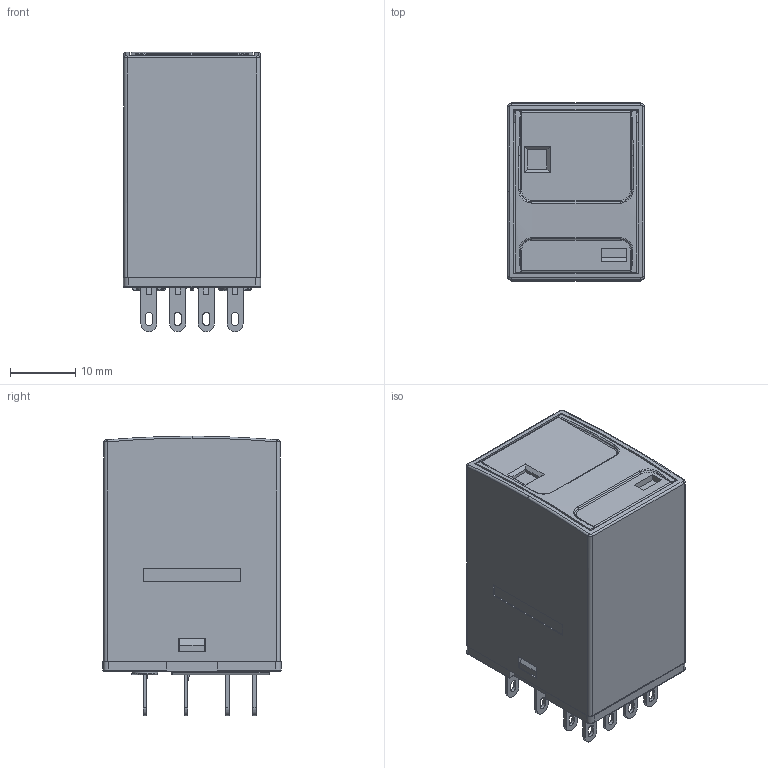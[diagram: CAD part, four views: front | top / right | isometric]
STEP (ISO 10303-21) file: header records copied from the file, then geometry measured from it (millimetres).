
FILE_DESCRIPTION (( 'STEP AP203' ), '1' );
FILE_NAME ('68BZ4Z唅聽宒.STEP', '2019-03-13T03:09:37', ( 'XiaZaiMa.COM' ), ( 'Win10NeT.COM' ), 'SwSTEP 2.0', 'SolidWorks 2014', '' );
FILE_SCHEMA (( 'CONFIG_CONTROL_DESIGN' ));
Length unit declared in the file: millimetre
Products named in the file (26): PCB; 68B4Z雄銅郪璃; 棠繚郪璃; flag; 嶺銅; 13F蹟佪; 俋褲ㄗ裔啣宒1ㄘ; 54價釱; 68B4Z三复合动点; 68A2ZDC濎沺; 68A2Z裔啣GS; 68B4Z遵褐噙え; 68A2Z玴沺DC; 68A2Z线圈架; 68BZ4Z唅聽宒; 68B2Z噙萸; 68A2Z傻穩隊; 68A2Z盄婁; 68BZ4Z雄銅え; 68A2ZDC沺郋; 68B遵褐諉盄え; 68BZ4Z唅聽雄輸; 68B4Z线圈引线脚; PCB support; insulator; 68B4Z线圈引线脚右
Assembly tree (48 placements, depth 3):
  68BZ4Z唅聽宒
    棠繚郪璃
      68A2ZDC濎沺
      68A2Z线圈架
      68A2Z盄婁
      68A2ZDC沺郋
      68B4Z线圈引线脚
      68B4Z线圈引线脚右
    13F蹟佪
    68B4Z雄銅郪璃
      68B4Z三复合动点  x4
      68A2Z玴沺DC
      68A2Z傻穩隊  x2
      68BZ4Z雄銅え
      68BZ4Z唅聽雄輸
      insulator
    嶺銅
    54價釱
    68B4Z遵褐噙え  x8
    68B2Z噙萸  x8
    68B遵褐諉盄え  x6
    PCB support
    PCB
    flag
    俋褲ㄗ裔啣宒1ㄘ
    68A2Z裔啣GS
Bounding box: 21 x 27.3 x 42.8 mm (x, y, z)
Volume: 11120.5 mm3; surface area: 21952.6 mm2
Topology: 49 solids, 49 shells, 3322 faces, 8634 edges, 5525 vertices
Faces by surface type: plane 2276, cylinder 775, torus 128, bspline 63, cone 44, sphere 36
Entity records: 80732 total; most frequent: CARTESIAN_POINT 19588, ORIENTED_EDGE 12292, DIRECTION 11589, EDGE_CURVE 6146, LINE 4637, VECTOR 4637, VERTEX_POINT 3905, AXIS2_PLACEMENT_3D 3476
